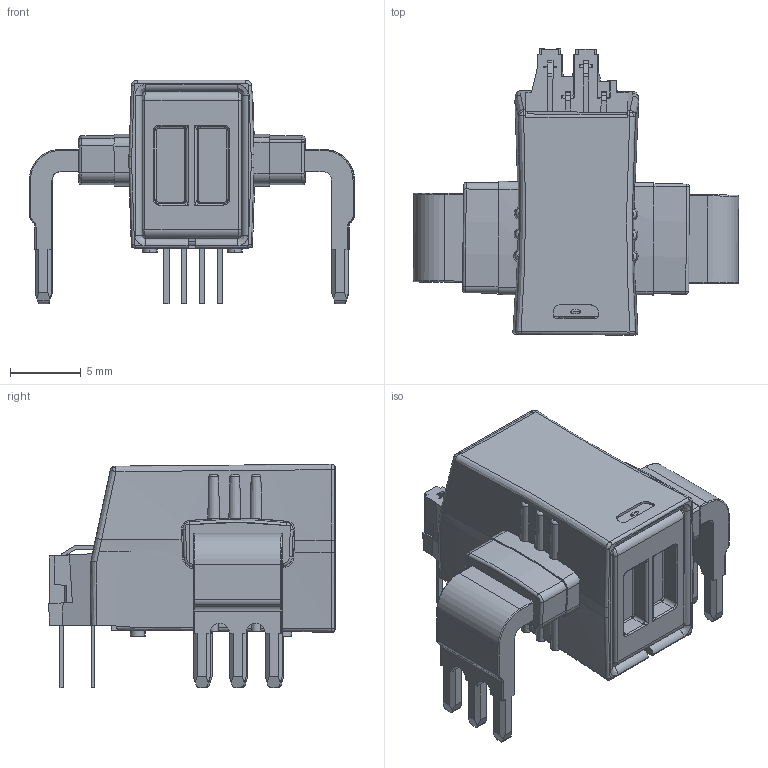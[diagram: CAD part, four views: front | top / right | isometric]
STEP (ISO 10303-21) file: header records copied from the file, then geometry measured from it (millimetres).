
FILE_DESCRIPTION(('Creo Elements/Direct Modeling STEP Export'),'2;1');
FILE_NAME('90.J3.36.059.0.stp','2025-08-11T 8:46:34',(''),(''),'Creo Elements/Direct Modeling STEP processor for AP214 (Solid Model)','Creo Elements/Direct Modeling 20.3D 14-Nov-2022 (C) Parametric Technology GmbH','');
FILE_SCHEMA(('AUTOMOTIVE_DESIGN { 1 0 10303 214 1 1 1 1 }'));
Products named in the file (2): 90.J3.36.059.0-Black Box
Assembly tree (1 placements, depth 2):
  90.J3.36.059.0-Black Box
    90.J3.36.059.0-Black Box
Bounding box: 23.04 x 20.27 x 15.83 mm (x, y, z)
Volume: 1980.9 mm3; surface area: 1915 mm2
Topology: 1 solids, 2 shells, 744 faces, 2047 edges, 1301 vertices
Faces by surface type: plane 370, cylinder 193, bspline 111, torus 38, cone 25, sphere 5, extrusion 2
Entity records: 43682 total; most frequent: CARTESIAN_POINT 25448, ORIENTED_EDGE 4076, DIRECTION 2967, EDGE_CURVE 2038, VERTEX_POINT 1302, VECTOR 1139, LINE 1137, AXIS2_PLACEMENT_3D 914
